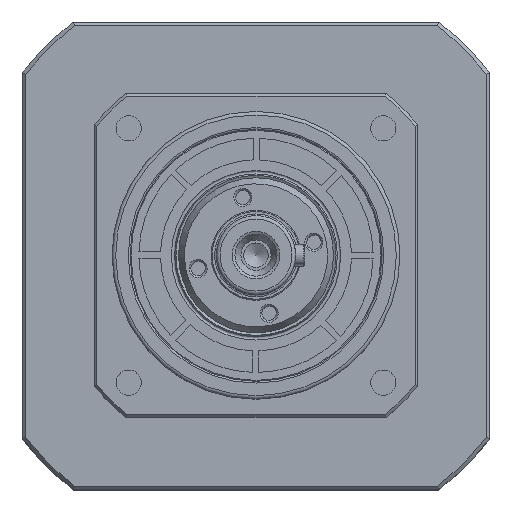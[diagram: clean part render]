
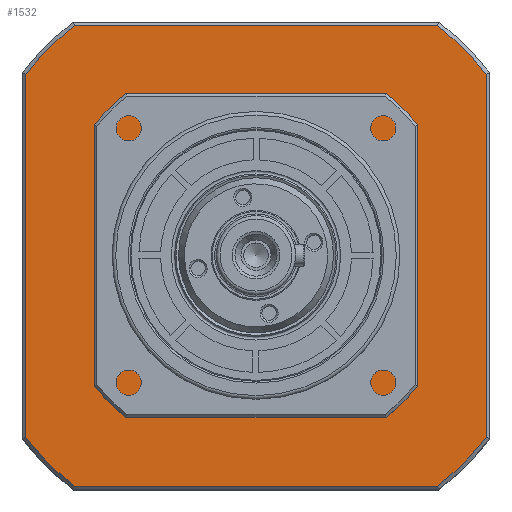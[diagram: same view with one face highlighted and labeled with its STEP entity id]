
A CAD part, top view. The second image highlights one B-rep face of the part: STEP entity #1532.
In plain terms, the highlighted planar face has unit normal (0, 0, 1).
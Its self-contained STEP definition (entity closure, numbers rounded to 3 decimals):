
#621=FACE_BOUND('',#2498,.T.);
#622=FACE_BOUND('',#2499,.T.);
#1144=CIRCLE('',#6822,81.5);
#1145=CIRCLE('',#6823,81.5);
#1146=CIRCLE('',#6824,81.5);
#1147=CIRCLE('',#6825,81.5);
#1148=CIRCLE('',#6826,40.);
#1532=ADVANCED_FACE('',(#621,#622),#1719,.T.);
#1719=PLANE('',#6827);
#2498=EDGE_LOOP('',(#3987,#3988,#3989,#3990,#3991,#3992,#3993,#3994));
#2499=EDGE_LOOP('',(#3995));
#3987=ORIENTED_EDGE('',*,*,#5401,.T.);
#3988=ORIENTED_EDGE('',*,*,#5402,.T.);
#3989=ORIENTED_EDGE('',*,*,#5403,.T.);
#3990=ORIENTED_EDGE('',*,*,#5404,.T.);
#3991=ORIENTED_EDGE('',*,*,#5405,.T.);
#3992=ORIENTED_EDGE('',*,*,#5406,.T.);
#3993=ORIENTED_EDGE('',*,*,#5407,.T.);
#3994=ORIENTED_EDGE('',*,*,#5408,.T.);
#3995=ORIENTED_EDGE('',*,*,#5409,.T.);
#4644=VERTEX_POINT('',#10611);
#4645=VERTEX_POINT('',#10612);
#4646=VERTEX_POINT('',#10614);
#4647=VERTEX_POINT('',#10616);
#4648=VERTEX_POINT('',#10618);
#4649=VERTEX_POINT('',#10620);
#4650=VERTEX_POINT('',#10622);
#4651=VERTEX_POINT('',#10624);
#4652=VERTEX_POINT('',#10627);
#5401=EDGE_CURVE('',#4644,#4645,#1144,.T.);
#5402=EDGE_CURVE('',#4645,#4646,#5784,.T.);
#5403=EDGE_CURVE('',#4646,#4647,#1145,.T.);
#5404=EDGE_CURVE('',#4647,#4648,#5785,.T.);
#5405=EDGE_CURVE('',#4648,#4649,#1146,.T.);
#5406=EDGE_CURVE('',#4649,#4650,#5786,.T.);
#5407=EDGE_CURVE('',#4650,#4651,#1147,.T.);
#5408=EDGE_CURVE('',#4651,#4644,#5787,.T.);
#5409=EDGE_CURVE('',#4652,#4652,#1148,.T.);
#5784=LINE('',#10613,#6123);
#5785=LINE('',#10617,#6124);
#5786=LINE('',#10621,#6125);
#5787=LINE('',#10625,#6126);
#6123=VECTOR('',#8616,1.);
#6124=VECTOR('',#8619,1.);
#6125=VECTOR('',#8622,1.);
#6126=VECTOR('',#8625,1.);
#6822=AXIS2_PLACEMENT_3D('',#10610,#8614,#8615);
#6823=AXIS2_PLACEMENT_3D('',#10615,#8617,#8618);
#6824=AXIS2_PLACEMENT_3D('',#10619,#8620,#8621);
#6825=AXIS2_PLACEMENT_3D('',#10623,#8623,#8624);
#6826=AXIS2_PLACEMENT_3D('',#10626,#8626,#8627);
#6827=AXIS2_PLACEMENT_3D('',#10628,#8628,#8629);
#8614=DIRECTION('',(0.,0.,1.));
#8615=DIRECTION('',(1.,0.,0.));
#8616=DIRECTION('',(0.,1.,0.));
#8617=DIRECTION('',(0.,0.,1.));
#8618=DIRECTION('',(1.,0.,0.));
#8619=DIRECTION('',(-1.,0.,0.));
#8620=DIRECTION('',(0.,0.,1.));
#8621=DIRECTION('',(1.,0.,0.));
#8622=DIRECTION('',(0.,-1.,0.));
#8623=DIRECTION('',(0.,0.,1.));
#8624=DIRECTION('',(1.,0.,0.));
#8625=DIRECTION('',(1.,0.,0.));
#8626=DIRECTION('',(0.,0.,-1.));
#8627=DIRECTION('',(1.,0.,0.));
#8628=DIRECTION('',(0.,0.,1.));
#8629=DIRECTION('',(1.,0.,0.));
#10610=CARTESIAN_POINT('',(0.,0.,22.5));
#10611=CARTESIAN_POINT('',(50.46,-64.,22.5));
#10612=CARTESIAN_POINT('',(64.,-50.46,22.5));
#10613=CARTESIAN_POINT('',(64.,50.806,22.5));
#10614=CARTESIAN_POINT('',(64.,50.46,22.5));
#10615=CARTESIAN_POINT('',(0.,0.,22.5));
#10616=CARTESIAN_POINT('',(50.46,64.,22.5));
#10617=CARTESIAN_POINT('',(-50.806,64.,22.5));
#10618=CARTESIAN_POINT('',(-50.46,64.,22.5));
#10619=CARTESIAN_POINT('',(0.,0.,22.5));
#10620=CARTESIAN_POINT('',(-64.,50.46,22.5));
#10621=CARTESIAN_POINT('',(-64.,-50.806,22.5));
#10622=CARTESIAN_POINT('',(-64.,-50.46,22.5));
#10623=CARTESIAN_POINT('',(0.,0.,22.5));
#10624=CARTESIAN_POINT('',(-50.46,-64.,22.5));
#10625=CARTESIAN_POINT('',(50.806,-64.,22.5));
#10626=CARTESIAN_POINT('',(0.,0.,22.5));
#10627=CARTESIAN_POINT('',(40.,0.,22.5));
#10628=CARTESIAN_POINT('',(0.,0.,22.5));
